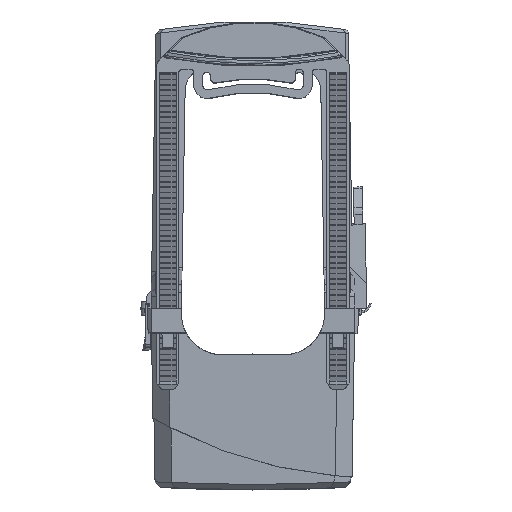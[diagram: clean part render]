
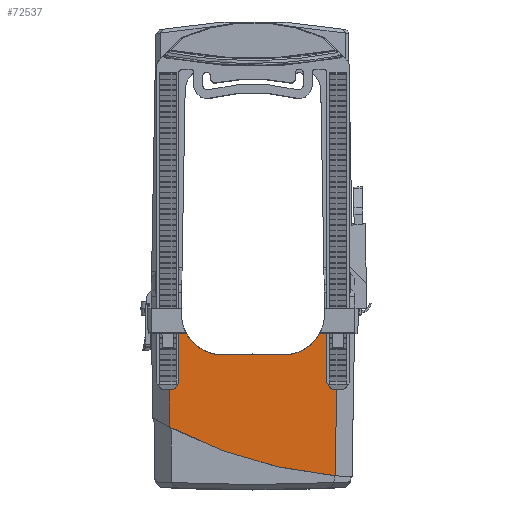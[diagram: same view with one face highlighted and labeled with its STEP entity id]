
A CAD part, top view. The second image highlights one B-rep face of the part: STEP entity #72537.
In plain terms, the highlighted planar face has unit normal (0, -0.018, 1) as drawn and (0, 0.017, 1) by its records, which use the part's own axes.
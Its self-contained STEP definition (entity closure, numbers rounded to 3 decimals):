
#685 = EDGE_CURVE ( 'NONE', #55901, #39481, #26827, .T. ) ;
#1535 = VERTEX_POINT ( 'NONE', #34094 ) ;
#1788 = CARTESIAN_POINT ( 'NONE',  ( -23.825, 7.5, 27.169 ) ) ;
#1882 = CARTESIAN_POINT ( 'NONE',  ( 23.825, 7.5, 27.169 ) ) ;
#2780 =( BOUNDED_CURVE ( )  B_SPLINE_CURVE ( 3, ( #69676, #57764, #46174, #11329 ),
 .UNSPECIFIED., .F., .T. ) 
 B_SPLINE_CURVE_WITH_KNOTS ( ( 4, 4 ),
 ( 5.8, 6.195 ),
 .UNSPECIFIED. ) 
 CURVE ( )  GEOMETRIC_REPRESENTATION_ITEM ( )  RATIONAL_B_SPLINE_CURVE ( ( 1., 0.987, 0.987, 1. ) ) 
 REPRESENTATION_ITEM ( '' )  );
#3996 = VERTEX_POINT ( 'NONE', #28549 ) ;
#5697 = CARTESIAN_POINT ( 'NONE',  ( -23.956, 0., 27.3 ) ) ;
#7127 = CARTESIAN_POINT ( 'NONE',  ( 23.826, 7.45, 27.17 ) ) ;
#7633 = CARTESIAN_POINT ( 'NONE',  ( -26.675, 7.5, 27.169 ) ) ;
#7902 = VECTOR ( 'NONE', #26510, 1000. ) ;
#8337 = LINE ( 'NONE', #26692, #7902 ) ;
#8699 = DIRECTION ( 'NONE',  ( -0.017, 1., -0.017 ) ) ;
#10211 = CARTESIAN_POINT ( 'NONE',  ( -25.249, -0.087, 27.302 ) ) ;
#10683 = CARTESIAN_POINT ( 'NONE',  ( -26.544, 0., 27.3 ) ) ;
#11088 = VERTEX_POINT ( 'NONE', #1788 ) ;
#11120 = VERTEX_POINT ( 'NONE', #1882 ) ;
#11329 = CARTESIAN_POINT ( 'NONE',  ( -24.38, 49.697, 26.433 ) ) ;
#11753 = CARTESIAN_POINT ( 'NONE',  ( 19.777, 7.5, 27.169 ) ) ;
#12046 = VERTEX_POINT ( 'NONE', #38310 ) ;
#12167 = VECTOR ( 'NONE', #44466, 1000. ) ;
#12531 = LINE ( 'NONE', #44703, #12167 ) ;
#12696 = CARTESIAN_POINT ( 'NONE',  ( -9.217, 13.8, 27.059 ) ) ;
#13344 = EDGE_CURVE ( 'NONE', #51531, #14345, #59202, .T. ) ;
#13468 =( BOUNDED_CURVE ( )  B_SPLINE_CURVE ( 3, ( #16371, #33658, #33911, #75271 ),
 .UNSPECIFIED., .F., .T. ) 
 B_SPLINE_CURVE_WITH_KNOTS ( ( 4, 4 ),
 ( 0., 1.076 ),
 .UNSPECIFIED. ) 
 CURVE ( )  GEOMETRIC_REPRESENTATION_ITEM ( )  RATIONAL_B_SPLINE_CURVE ( ( 1., 0.906, 0.906, 1. ) ) 
 REPRESENTATION_ITEM ( '' )  );
#14345 = VERTEX_POINT ( 'NONE', #20229 ) ;
#15652 = CARTESIAN_POINT ( 'NONE',  ( 30.25, 0., 27.3 ) ) ;
#15868 = DIRECTION ( 'NONE',  ( -0.017, -1., 0.017 ) ) ;
#16371 = CARTESIAN_POINT ( 'NONE',  ( 9.217, 13.8, 27.059 ) ) ;
#17209 = CARTESIAN_POINT ( 'NONE',  ( 23.956, 0., 27.3 ) ) ;
#18789 = ORIENTED_EDGE ( 'NONE', *, *, #61957, .T. ) ;
#20229 = CARTESIAN_POINT ( 'NONE',  ( 24.632, 35.297, 26.684 ) ) ;
#20398 = CARTESIAN_POINT ( 'NONE',  ( 26.675, 7.5, 27.169 ) ) ;
#20558 = EDGE_CURVE ( 'NONE', #55901, #29076, #62585, .T. ) ;
#20836 = PLANE ( 'NONE',  #30872 ) ;
#21199 = CARTESIAN_POINT ( 'NONE',  ( 25.117, 7.5, 27.169 ) ) ;
#21512 = ORIENTED_EDGE ( 'NONE', *, *, #685, .F. ) ;
#21986 = VERTEX_POINT ( 'NONE', #55496 ) ;
#22158 = CARTESIAN_POINT ( 'NONE',  ( -9.217, 13.8, 27.059 ) ) ;
#23124 = CARTESIAN_POINT ( 'NONE',  ( -23.825, 7.5, 27.169 ) ) ;
#23294 = ORIENTED_EDGE ( 'NONE', *, *, #37430, .T. ) ;
#24446 = ORIENTED_EDGE ( 'NONE', *, *, #32552, .T. ) ;
#25671 = VECTOR ( 'NONE', #8699, 1000. ) ;
#25930 = EDGE_CURVE ( 'NONE', #11088, #12046, #8337, .T. ) ;
#26217 = DIRECTION ( 'NONE',  ( 0.017, 1., -0.017 ) ) ;
#26510 = DIRECTION ( 'NONE',  ( 1., 0., 0. ) ) ;
#26661 = DIRECTION ( 'NONE',  ( 0., -1., 0.017 ) ) ;
#26692 = CARTESIAN_POINT ( 'NONE',  ( -30.25, 7.5, 27.169 ) ) ;
#26827 = LINE ( 'NONE', #7633, #25671 ) ;
#27234 = CARTESIAN_POINT ( 'NONE',  ( -30.25, 0., 27.3 ) ) ;
#27555 = EDGE_CURVE ( 'NONE', #39481, #1535, #67242, .T. ) ;
#28549 = CARTESIAN_POINT ( 'NONE',  ( -24.38, 49.697, 26.433 ) ) ;
#29076 = VERTEX_POINT ( 'NONE', #5697 ) ;
#29603 = DIRECTION ( 'NONE',  ( 1., 0., 0. ) ) ;
#30194 = DIRECTION ( 'NONE',  ( -0.017, 1., -0.017 ) ) ;
#30640 = EDGE_CURVE ( 'NONE', #51531, #73547, #32769, .T. ) ;
#30650 = ORIENTED_EDGE ( 'NONE', *, *, #13344, .T. ) ;
#30762 = VERTEX_POINT ( 'NONE', #31925 ) ;
#30855 = VECTOR ( 'NONE', #54378, 1000. ) ;
#30872 = AXIS2_PLACEMENT_3D ( 'NONE', #44124, #61899, #26661 ) ;
#30930 = VECTOR ( 'NONE', #65258, 1000. ) ;
#31154 = LINE ( 'NONE', #54288, #30855 ) ;
#31925 = CARTESIAN_POINT ( 'NONE',  ( 9.217, 13.8, 27.059 ) ) ;
#32331 = ORIENTED_EDGE ( 'NONE', *, *, #25930, .T. ) ;
#32398 = ORIENTED_EDGE ( 'NONE', *, *, #27555, .F. ) ;
#32526 = DIRECTION ( 'NONE',  ( -0.017, 1., -0.017 ) ) ;
#32552 = EDGE_CURVE ( 'NONE', #48655, #11120, #12531, .T. ) ;
#32760 = VECTOR ( 'NONE', #35871, 1000. ) ;
#32769 = LINE ( 'NONE', #35792, #32760 ) ;
#33162 = DIRECTION ( 'NONE',  ( 1., 0., 0. ) ) ;
#33566 = CARTESIAN_POINT ( 'NONE',  ( -17.627, 11.482, 27.1 ) ) ;
#33658 = CARTESIAN_POINT ( 'NONE',  ( 13.742, 13.8, 27.059 ) ) ;
#33911 = CARTESIAN_POINT ( 'NONE',  ( 17.627, 11.482, 27.1 ) ) ;
#34094 = CARTESIAN_POINT ( 'NONE',  ( -25.117, 7.5, 27.169 ) ) ;
#35403 = ORIENTED_EDGE ( 'NONE', *, *, #60480, .T. ) ;
#35718 = FACE_OUTER_BOUND ( 'NONE', #74745, .T. ) ;
#35792 = CARTESIAN_POINT ( 'NONE',  ( 26.675, 7.5, 27.169 ) ) ;
#35871 = DIRECTION ( 'NONE',  ( 1., 0., 0. ) ) ;
#37020 = CARTESIAN_POINT ( 'NONE',  ( -26.675, 7.5, 27.169 ) ) ;
#37430 = EDGE_CURVE ( 'NONE', #74296, #30762, #31154, .T. ) ;
#38310 = CARTESIAN_POINT ( 'NONE',  ( -19.777, 7.5, 27.169 ) ) ;
#39481 = VERTEX_POINT ( 'NONE', #37020 ) ;
#41333 = VECTOR ( 'NONE', #26217, 1000. ) ;
#41493 = LINE ( 'NONE', #20398, #41333 ) ;
#42072 = CARTESIAN_POINT ( 'NONE',  ( 26.675, 7.5, 27.169 ) ) ;
#44124 = CARTESIAN_POINT ( 'NONE',  ( -30.25, 0., 27.3 ) ) ;
#44466 = DIRECTION ( 'NONE',  ( 1., 0., 0. ) ) ;
#44703 = CARTESIAN_POINT ( 'NONE',  ( -30.25, 7.5, 27.169 ) ) ;
#45307 = ORIENTED_EDGE ( 'NONE', *, *, #20558, .T. ) ;
#46174 = CARTESIAN_POINT ( 'NONE',  ( -7.195, 48.181, 26.459 ) ) ;
#46413 = ORIENTED_EDGE ( 'NONE', *, *, #61149, .F. ) ;
#48655 = VERTEX_POINT ( 'NONE', #11753 ) ;
#50045 = ORIENTED_EDGE ( 'NONE', *, *, #30640, .F. ) ;
#51531 = VERTEX_POINT ( 'NONE', #21199 ) ;
#52563 =( BOUNDED_CURVE ( )  B_SPLINE_CURVE ( 3, ( #74921, #33566, #57301, #22158 ),
 .UNSPECIFIED., .F., .F. ) 
 B_SPLINE_CURVE_WITH_KNOTS ( ( 4, 4 ),
 ( 5.207, 6.283 ),
 .UNSPECIFIED. ) 
 CURVE ( )  GEOMETRIC_REPRESENTATION_ITEM ( )  RATIONAL_B_SPLINE_CURVE ( ( 1., 0.906, 0.906, 1. ) ) 
 REPRESENTATION_ITEM ( '' )  );
#53338 = CARTESIAN_POINT ( 'NONE',  ( 25.231, 0.968, 27.283 ) ) ;
#54288 = CARTESIAN_POINT ( 'NONE',  ( -30.25, 13.8, 27.059 ) ) ;
#54378 = DIRECTION ( 'NONE',  ( 1., 0., 0. ) ) ;
#54485 = ORIENTED_EDGE ( 'NONE', *, *, #72199, .T. ) ;
#55496 = CARTESIAN_POINT ( 'NONE',  ( 26.544, 0., 27.3 ) ) ;
#55556 = LINE ( 'NONE', #7127, #56532 ) ;
#55901 = VERTEX_POINT ( 'NONE', #10683 ) ;
#56420 = EDGE_CURVE ( 'NONE', #14345, #3996, #2780, .T. ) ;
#56532 = VECTOR ( 'NONE', #30194, 1000. ) ;
#57301 = CARTESIAN_POINT ( 'NONE',  ( -13.742, 13.8, 27.059 ) ) ;
#57764 = CARTESIAN_POINT ( 'NONE',  ( 9.357, 43.318, 26.544 ) ) ;
#58997 = VECTOR ( 'NONE', #32526, 1000. ) ;
#59202 = LINE ( 'NONE', #53338, #58997 ) ;
#60257 = VECTOR ( 'NONE', #33162, 1000. ) ;
#60480 = EDGE_CURVE ( 'NONE', #30762, #48655, #13468, .T. ) ;
#60692 = LINE ( 'NONE', #15652, #60257 ) ;
#61149 = EDGE_CURVE ( 'NONE', #62484, #11120, #55556, .T. ) ;
#61899 = DIRECTION ( 'NONE',  ( 0., 0.017, 1. ) ) ;
#61957 = EDGE_CURVE ( 'NONE', #3996, #1535, #72377, .T. ) ;
#62484 = VERTEX_POINT ( 'NONE', #17209 ) ;
#62488 = EDGE_CURVE ( 'NONE', #29076, #11088, #66381, .T. ) ;
#62585 = LINE ( 'NONE', #27234, #63125 ) ;
#63125 = VECTOR ( 'NONE', #29603, 1000. ) ;
#63727 = ORIENTED_EDGE ( 'NONE', *, *, #62488, .T. ) ;
#65258 = DIRECTION ( 'NONE',  ( 1., 0., 0. ) ) ;
#65422 = CARTESIAN_POINT ( 'NONE',  ( -26.675, 7.5, 27.169 ) ) ;
#65766 = VECTOR ( 'NONE', #70177, 1000. ) ;
#66381 = LINE ( 'NONE', #23124, #65766 ) ;
#66642 = ORIENTED_EDGE ( 'NONE', *, *, #56420, .T. ) ;
#67242 = LINE ( 'NONE', #65422, #30930 ) ;
#68589 = ORIENTED_EDGE ( 'NONE', *, *, #70128, .T. ) ;
#69676 = CARTESIAN_POINT ( 'NONE',  ( 24.632, 35.297, 26.684 ) ) ;
#70128 = EDGE_CURVE ( 'NONE', #62484, #21986, #60692, .T. ) ;
#70177 = DIRECTION ( 'NONE',  ( 0.017, 1., -0.017 ) ) ;
#71986 = EDGE_CURVE ( 'NONE', #21986, #73547, #41493, .T. ) ;
#72145 = VECTOR ( 'NONE', #15868, 1000. ) ;
#72199 = EDGE_CURVE ( 'NONE', #12046, #74296, #52563, .T. ) ;
#72377 = LINE ( 'NONE', #10211, #72145 ) ;
#72537 = ADVANCED_FACE ( 'NONE', ( #35718 ), #20836, .T. ) ;
#73547 = VERTEX_POINT ( 'NONE', #42072 ) ;
#74296 = VERTEX_POINT ( 'NONE', #12696 ) ;
#74745 = EDGE_LOOP ( 'NONE', ( #35403, #24446, #46413, #68589, #75056, #50045, #30650, #66642, #18789, #32398, #21512, #45307, #63727, #32331, #54485, #23294 ) ) ;
#74921 = CARTESIAN_POINT ( 'NONE',  ( -19.777, 7.5, 27.169 ) ) ;
#75056 = ORIENTED_EDGE ( 'NONE', *, *, #71986, .T. ) ;
#75271 = CARTESIAN_POINT ( 'NONE',  ( 19.777, 7.5, 27.169 ) ) ;
